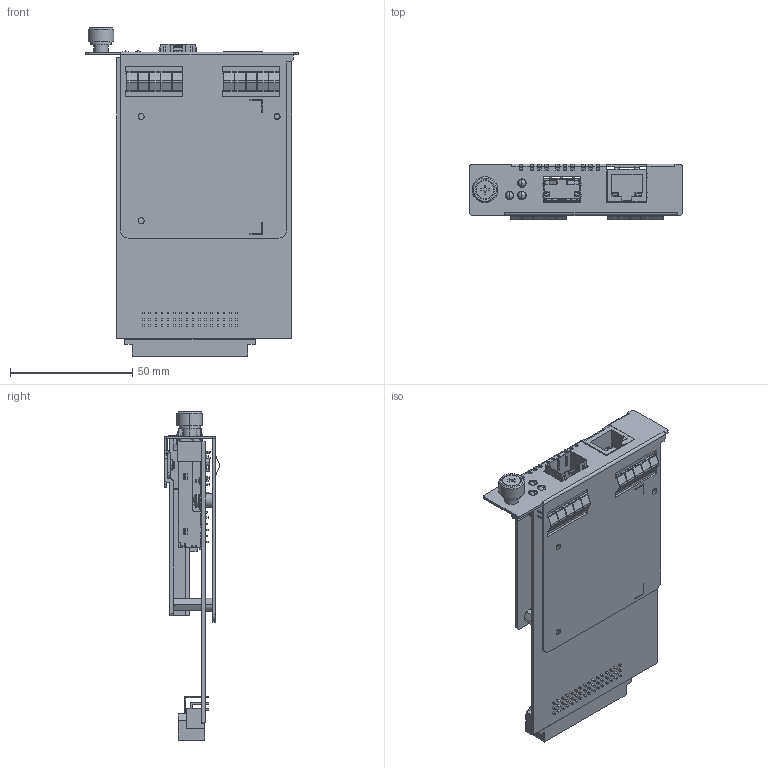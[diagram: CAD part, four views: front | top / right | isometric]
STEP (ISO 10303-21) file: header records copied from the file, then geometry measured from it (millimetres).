
FILE_DESCRIPTION((''),'2;1');
FILE_NAME('3D_CSM_G200','2022-05-24T11:51:51',('Dacia_Yao'),('PTC'),'CREO PARAMETRIC BY PTC INC, 2018020','CREO PARAMETRIC BY PTC INC, 2018020','');
FILE_SCHEMA(('AUTOMOTIVE_DESIGN { 1 0 10303 214 1 1 1 1 }'));
Products named in the file (1): 3D_CSM_G200
Bounding box: 86.8 x 22.87 x 134.3 mm (x, y, z)
Volume: 29760.3 mm3; surface area: 65037.2 mm2
Topology: 11 solids, 20 shells, 2517 faces, 6938 edges, 4539 vertices
Faces by surface type: plane 1852, cylinder 586, cone 33, bspline 26, extrusion 12, torus 4, revolution 4
Entity records: 100266 total; most frequent: CARTESIAN_POINT 18303, ORIENTED_EDGE 13531, DIRECTION 12837, EDGE_CURVE 6938, VECTOR 5583, LINE 5571, VERTEX_POINT 4539, PRESENTATION_STYLE_ASSIGNMENT 4154
